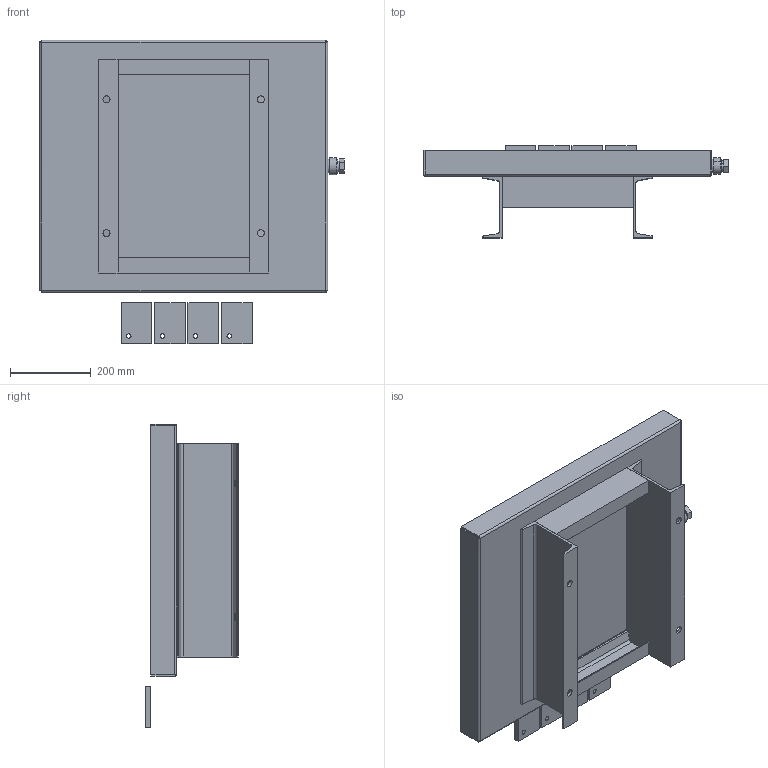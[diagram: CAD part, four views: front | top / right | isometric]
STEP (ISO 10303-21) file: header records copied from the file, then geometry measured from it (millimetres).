
FILE_DESCRIPTION (( 'STEP AP214' ), '1' );
FILE_NAME ('TDP-10.STEP', '2019-06-14T11:48:01', ( '' ), ( '' ), 'SwSTEP 2.0', 'SolidWorks 2013', '' );
FILE_SCHEMA (( 'AUTOMOTIVE_DESIGN' ));
Length unit declared in the file: inch
Products named in the file (7): C6-TDP-10_Default<As Welded>; TDP-10; TDP-PAD; #12 SAE DRAIN; #12 SAE PLUG; C3-TDP-10_Default<As Welded>
Assembly tree (11 placements, depth 2):
  TDP-10
    TDP-10
    C6-TDP-10_Default<As Welded>  x2
    C3-TDP-10_Default<As Welded>  x2
    #12 SAE PLUG
    #12 SAE DRAIN
    TDP-PAD  x4
Bounding box: 752.48 x 228.6 x 749.3 mm (x, y, z)
Volume: 4833985.9 mm3; surface area: 1979672.9 mm2
Topology: 11 solids, 11 shells, 163 faces, 378 edges, 240 vertices
Faces by surface type: plane 99, cylinder 50, bspline 8, cone 6
Entity records: 3882 total; most frequent: CARTESIAN_POINT 1105, DIRECTION 498, ORIENTED_EDGE 480, EDGE_CURVE 240, VECTOR 168, LINE 168, AXIS2_PLACEMENT_3D 165, VERTEX_POINT 148
